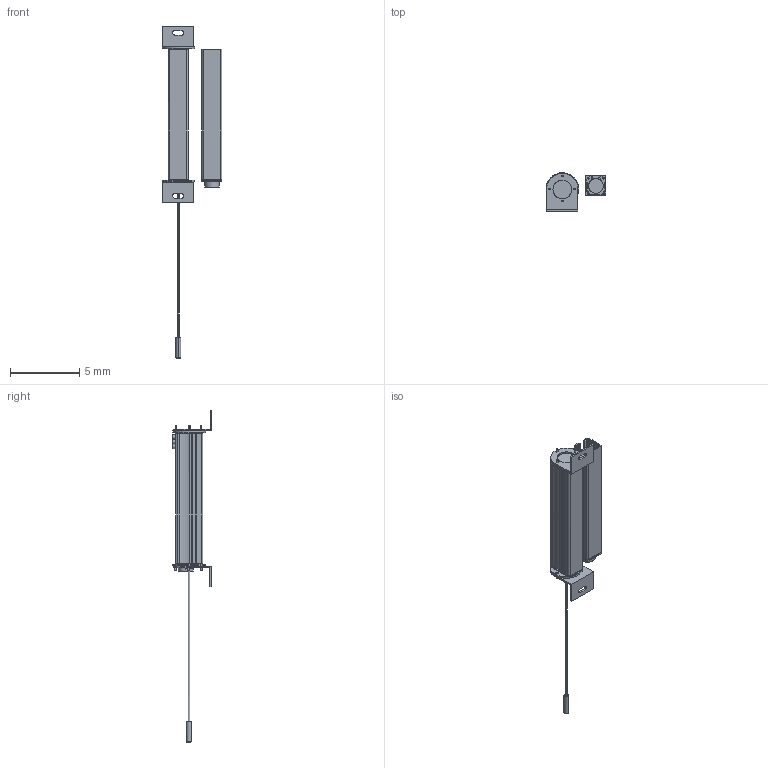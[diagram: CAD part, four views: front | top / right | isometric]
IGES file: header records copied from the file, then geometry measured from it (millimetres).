
Bounding box: 4.31 x 2.85 x 23.91 mm (x, y, z)
Surface area: 356.3 mm2 (no closed solid volume)
Topology: 0 solids, 0 shells, 957 faces, 5361 edges, 5603 vertices
Faces by surface type: bspline 957
